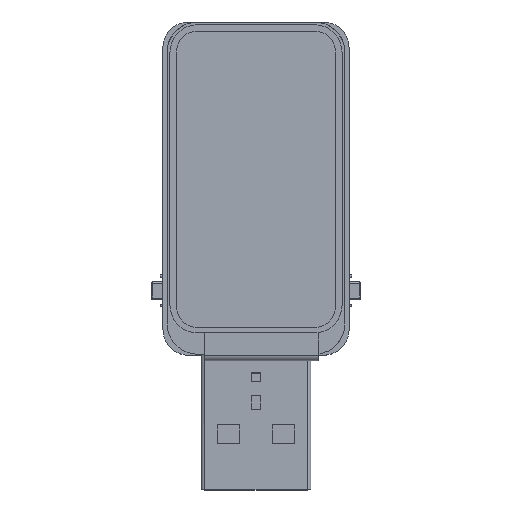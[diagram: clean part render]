
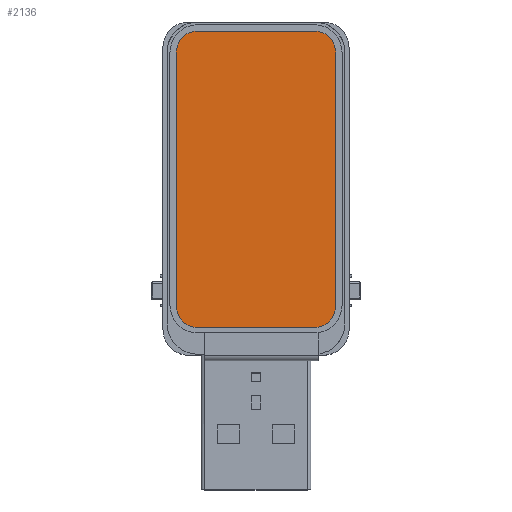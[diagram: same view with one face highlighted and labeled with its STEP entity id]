
A CAD part, top view. The second image highlights one B-rep face of the part: STEP entity #2136.
In plain terms, the highlighted planar face has unit normal (0, 0, 1).
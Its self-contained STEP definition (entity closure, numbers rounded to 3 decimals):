
#958=DIRECTION('',(-1.,0.,0.));
#959=VECTOR('',#958,12.79);
#960=CARTESIAN_POINT('',(6.395,-16.175,1.4));
#961=LINE('',#960,#959);
#965=CARTESIAN_POINT('',(-6.395,-13.875,1.4));
#966=DIRECTION('',(0.,0.,1.));
#967=DIRECTION('',(-1.,0.,0.));
#968=AXIS2_PLACEMENT_3D('',#965,#966,#967);
#973=DIRECTION('',(0.,1.,0.));
#974=VECTOR('',#973,27.75);
#975=CARTESIAN_POINT('',(-8.695,-13.875,1.4));
#976=LINE('',#975,#974);
#980=CARTESIAN_POINT('',(-6.395,13.875,1.4));
#981=DIRECTION('',(0.,0.,1.));
#982=DIRECTION('',(0.,1.,0.));
#983=AXIS2_PLACEMENT_3D('',#980,#981,#982);
#988=DIRECTION('',(1.,0.,0.));
#989=VECTOR('',#988,12.79);
#990=CARTESIAN_POINT('',(-6.395,16.175,1.4));
#991=LINE('',#990,#989);
#995=CARTESIAN_POINT('',(6.395,13.875,1.4));
#996=DIRECTION('',(0.,0.,1.));
#997=DIRECTION('',(1.,0.,0.));
#998=AXIS2_PLACEMENT_3D('',#995,#996,#997);
#1003=DIRECTION('',(0.,-1.,0.));
#1004=VECTOR('',#1003,27.75);
#1005=CARTESIAN_POINT('',(8.695,13.875,1.4));
#1006=LINE('',#1005,#1004);
#1010=CARTESIAN_POINT('',(6.395,-13.875,1.4));
#1011=DIRECTION('',(0.,0.,1.));
#1012=DIRECTION('',(0.,-1.,0.));
#1013=AXIS2_PLACEMENT_3D('',#1010,#1011,#1012);
#1099=CARTESIAN_POINT('',(6.395,-16.175,1.4));
#1100=CARTESIAN_POINT('',(-6.395,-16.175,1.4));
#1101=VERTEX_POINT('',#1099);
#1102=VERTEX_POINT('',#1100);
#1103=CARTESIAN_POINT('',(-8.695,-13.875,1.4));
#1104=VERTEX_POINT('',#1103);
#1105=CARTESIAN_POINT('',(-8.695,13.875,1.4));
#1106=VERTEX_POINT('',#1105);
#1107=CARTESIAN_POINT('',(-6.395,16.175,1.4));
#1108=VERTEX_POINT('',#1107);
#1109=CARTESIAN_POINT('',(6.395,16.175,1.4));
#1110=VERTEX_POINT('',#1109);
#1111=CARTESIAN_POINT('',(8.695,13.875,1.4));
#1112=VERTEX_POINT('',#1111);
#1113=CARTESIAN_POINT('',(8.695,-13.875,1.4));
#1114=VERTEX_POINT('',#1113);
#2114=CARTESIAN_POINT('',(0.,0.,1.4));
#2115=DIRECTION('',(0.,0.,1.));
#2116=DIRECTION('',(1.,0.,0.));
#2117=AXIS2_PLACEMENT_3D('',#2114,#2115,#2116);
#2118=PLANE('',#2117);
#2119=ORIENTED_EDGE('',*,*,#2104,.T.);
#2121=ORIENTED_EDGE('',*,*,#2120,.F.);
#2123=ORIENTED_EDGE('',*,*,#2122,.T.);
#2125=ORIENTED_EDGE('',*,*,#2124,.F.);
#2127=ORIENTED_EDGE('',*,*,#2126,.T.);
#2129=ORIENTED_EDGE('',*,*,#2128,.F.);
#2131=ORIENTED_EDGE('',*,*,#2130,.T.);
#2133=ORIENTED_EDGE('',*,*,#2132,.F.);
#2134=EDGE_LOOP('',(#2119,#2121,#2123,#2125,#2127,#2129,#2131,#2133));
#2135=FACE_OUTER_BOUND('',#2134,.F.);
#2136=ADVANCED_FACE('',(#2135),#2118,.T.);
#969=CIRCLE('',#968,2.3);
#984=CIRCLE('',#983,2.3);
#999=CIRCLE('',#998,2.3);
#1014=CIRCLE('',#1013,2.3);
#2104=EDGE_CURVE('',#1101,#1102,#961,.T.);
#2120=EDGE_CURVE('',#1104,#1102,#969,.T.);
#2122=EDGE_CURVE('',#1104,#1106,#976,.T.);
#2124=EDGE_CURVE('',#1108,#1106,#984,.T.);
#2126=EDGE_CURVE('',#1108,#1110,#991,.T.);
#2128=EDGE_CURVE('',#1112,#1110,#999,.T.);
#2130=EDGE_CURVE('',#1112,#1114,#1006,.T.);
#2132=EDGE_CURVE('',#1101,#1114,#1014,.T.);
